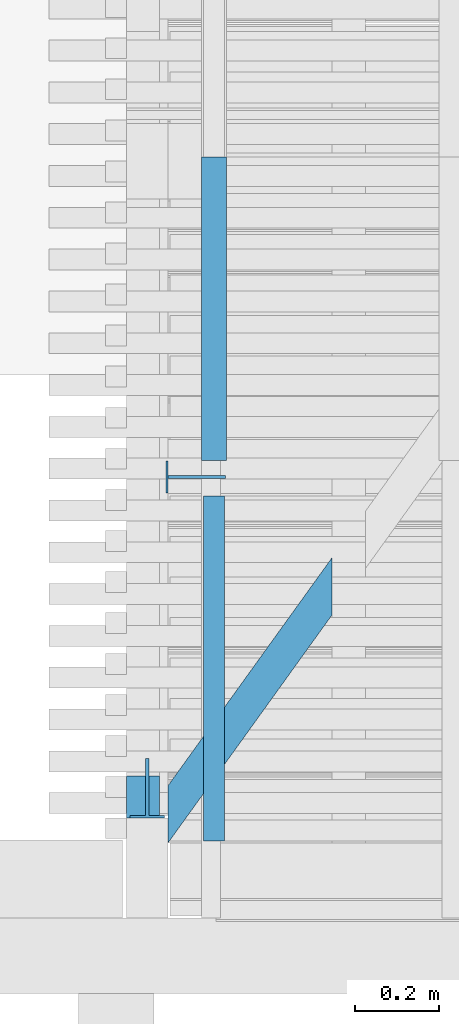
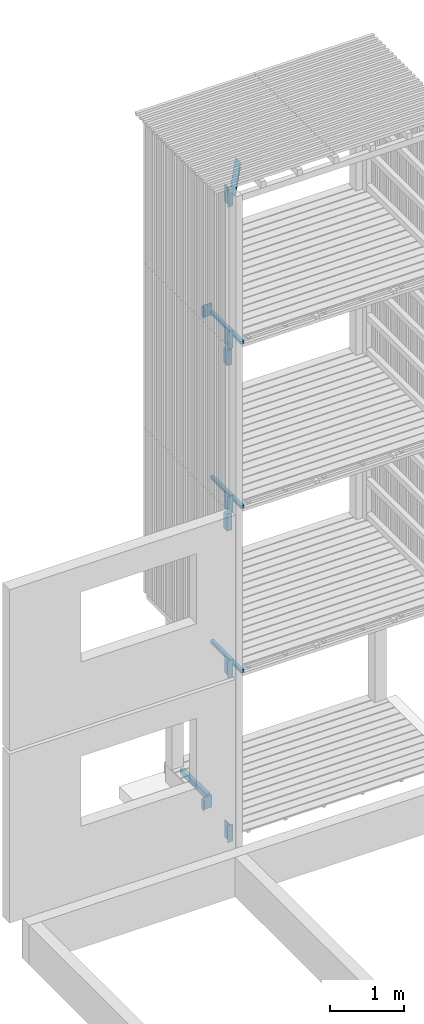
# One storey, part 161 of 182: 14 beams.
"""IFC2X3 building model written with IfcOpenShell, lengths in metres."""

from ifc_helpers import new_model, si_unit, frame, origin, place, context, project, spatial, faceted_brep, element, save


model = new_model("IFC2X3")

# Units and contexts
model_context = context("Model", 3, precision=1e-06, world=origin())
ifc_project = project(units=[si_unit("LENGTHUNIT", "METRE"), si_unit("PLANEANGLEUNIT", "RADIAN")], contexts=[model_context])

# Site, building, storey
site = spatial("IfcSite", under=ifc_project, CompositionType="ELEMENT")
building = spatial("IfcBuilding", under=site, CompositionType="ELEMENT")
storey = spatial("IfcBuildingStorey", under=building, Name="vs", CompositionType="ELEMENT", Elevation=-0.85)

# Beams
placement = place(None, origin())
beam_1_placement = place(placement, frame((3.354197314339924, 10.760077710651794, 4.85796194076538), z_axis=(0.0, 1.0, 0.0), x_axis=(0.0, 0.0, 1.0)))
element("IfcBeam", 1, at=beam_1_placement, inside=storey, Name="Support bardage", context=model_context, shape_type="Brep", body=[
    faceted_brep([(0.267038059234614, -0.039999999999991, 0.05), (0.267038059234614, -0.039999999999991, -0.050000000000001), (0.267038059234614, 0.040000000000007, -0.050000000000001), (0.267038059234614, 0.040000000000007, 0.05), (0.267038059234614, 0.040000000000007, -0.050000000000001), (0.267038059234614, -0.039999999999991, -0.050000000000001), (0.0, -0.039999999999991, -0.050000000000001), (0.0, 0.040000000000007, -0.050000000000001), (0.267038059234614, 0.040000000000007, 0.05), (0.267038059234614, 0.040000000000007, -0.050000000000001), (0.0, 0.040000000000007, -0.050000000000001), (0.0, 0.040000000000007, 0.05), (0.267038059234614, -0.039999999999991, -0.050000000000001), (0.267038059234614, -0.039999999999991, 0.05), (0.0, -0.039999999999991, 0.05), (0.0, -0.039999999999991, -0.050000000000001), (0.267038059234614, -0.039999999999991, 0.05), (0.267038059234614, 0.040000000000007, 0.05), (0.0, 0.040000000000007, 0.05), (0.0, -0.039999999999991, 0.05), (0.0, -0.039999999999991, -0.050000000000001), (0.0, -0.039999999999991, 0.05), (0.0, 0.040000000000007, 0.05), (0.0, 0.040000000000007, -0.050000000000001)], [[[0, 1, 2, 3]], [[4, 5, 6, 7]], [[8, 9, 10, 11]], [[12, 13, 14, 15]], [[16, 17, 18, 19]], [[20, 21, 22, 23]]]),
])
beam_2_placement = place(placement, frame((3.524197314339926, 10.655077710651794, 2.517999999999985), z_axis=(0.0, 0.0, 1.0), x_axis=(0.0, 1.0, 0.0)))
element("IfcBeam", 2, at=beam_2_placement, inside=storey, Name="Calage", context=model_context, shape_type="Brep", body=[
    faceted_brep([(0.824999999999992, -0.025000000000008, 0.025), (0.824999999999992, 0.024999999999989, 0.025), (-1e-15, 0.024999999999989, 0.025), (-1e-15, -0.025000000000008, 0.025), (-1e-15, 0.024999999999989, 0.025), (0.824999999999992, 0.024999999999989, 0.025), (0.824999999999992, 0.024999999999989, -0.025), (-1e-15, 0.024999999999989, -0.025), (0.824999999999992, 0.024999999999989, 0.025), (0.824999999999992, -0.025000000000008, 0.025), (0.824999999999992, -0.025000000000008, -0.025), (0.824999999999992, 0.024999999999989, -0.025), (0.824999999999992, -0.025000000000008, -0.025), (0.824999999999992, -0.025000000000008, 0.025), (-1e-15, -0.025000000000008, 0.025), (-1e-15, -0.025000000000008, -0.025), (-1e-15, 0.024999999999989, -0.025), (0.824999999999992, 0.024999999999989, -0.025), (0.824999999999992, -0.025000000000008, -0.025), (-1e-15, -0.025000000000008, -0.025), (-1e-15, 0.024999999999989, 0.025), (-1e-15, 0.024999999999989, -0.025), (-1e-15, -0.025000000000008, -0.025), (-1e-15, -0.025000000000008, 0.025)], [[[0, 1, 2, 3]], [[4, 5, 6, 7]], [[8, 9, 10, 11]], [[12, 13, 14, 15]], [[16, 17, 18, 19]], [[20, 21, 22, 23]]]),
])
beam_3_placement = place(placement, frame((3.38172577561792, 10.673435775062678, 10.404999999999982), z_axis=(0.0, 0.0, 1.0), x_axis=(0.583951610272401, 0.811788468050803, 0.0)))
element("IfcBeam", 3, at=beam_3_placement, inside=storey, Name="Support bardage", context=model_context, shape_type="Brep", body=[
    faceted_brep([(0.670717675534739, -0.039999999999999, 0.050000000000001), (0.670717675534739, -0.039999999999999, -0.050000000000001), (0.781930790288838, 0.040000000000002, -0.050000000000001), (0.781930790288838, 0.040000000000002, 0.050000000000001), (4e-15, -0.040000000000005, 0.050000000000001), (0.670717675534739, -0.039999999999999, 0.050000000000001), (0.781930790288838, 0.040000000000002, 0.050000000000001), (0.111213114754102, 0.039999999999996, 0.050000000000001), (0.111213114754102, 0.039999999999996, -0.049999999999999), (0.781930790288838, 0.040000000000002, -0.050000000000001), (0.670717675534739, -0.039999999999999, -0.050000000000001), (4e-15, -0.040000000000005, -0.050000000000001), (4e-15, -0.040000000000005, -0.050000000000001), (0.670717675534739, -0.039999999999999, -0.050000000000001), (0.670717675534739, -0.039999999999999, 0.050000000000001), (4e-15, -0.040000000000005, 0.050000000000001), (0.111213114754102, 0.039999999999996, -0.049999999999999), (4e-15, -0.040000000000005, -0.050000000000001), (4e-15, -0.040000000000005, 0.050000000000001), (0.111213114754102, 0.039999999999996, 0.050000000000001), (0.111213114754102, 0.039999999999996, -0.049999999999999), (0.111213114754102, 0.039999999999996, 0.050000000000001), (0.781930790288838, 0.040000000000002, 0.050000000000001), (0.781930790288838, 0.040000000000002, -0.050000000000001)], [[[0, 1, 2, 3]], [[4, 5, 6, 7]], [[8, 9, 10, 11]], [[12, 13, 14, 15]], [[16, 17, 18, 19]], [[20, 21, 22, 23]]]),
])
beam_4_placement = place(placement, frame((3.354197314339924, 10.760077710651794, 7.576188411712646), z_axis=(0.0, 1.0, 0.0), x_axis=(0.0, 0.0, 1.0)))
element("IfcBeam", 4, at=beam_4_placement, inside=storey, Name="Support bardage", context=model_context, shape_type="Brep", body=[
    faceted_brep([(0.248811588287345, -0.039999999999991, 0.05), (0.248811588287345, -0.039999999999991, -0.050000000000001), (0.248811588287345, 0.040000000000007, -0.050000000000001), (0.248811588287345, 0.040000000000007, 0.05), (0.248811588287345, 0.040000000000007, -0.050000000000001), (0.248811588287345, -0.039999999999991, -0.050000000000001), (0.0, -0.039999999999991, -0.050000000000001), (0.0, 0.040000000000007, -0.050000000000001), (0.248811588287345, -0.039999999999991, -0.050000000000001), (0.248811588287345, -0.039999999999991, 0.05), (0.0, -0.039999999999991, 0.05), (0.0, -0.039999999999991, -0.050000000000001), (0.248811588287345, -0.039999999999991, 0.05), (0.248811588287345, 0.040000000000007, 0.05), (0.0, 0.040000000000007, 0.05), (0.0, -0.039999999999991, 0.05), (0.248811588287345, 0.040000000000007, 0.05), (0.248811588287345, 0.040000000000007, -0.050000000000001), (0.0, 0.040000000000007, -0.050000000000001), (0.0, 0.040000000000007, 0.05), (0.0, -0.039999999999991, 0.05), (0.0, 0.040000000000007, 0.05), (0.0, 0.040000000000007, -0.050000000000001), (0.0, -0.039999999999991, -0.050000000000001)], [[[0, 1, 2, 3]], [[4, 5, 6, 7]], [[8, 9, 10, 11]], [[12, 13, 14, 15]], [[16, 17, 18, 19]], [[20, 21, 22, 23]]]),
])
beam_5_placement = place(placement, frame((3.480197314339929, 11.525077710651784, -0.243899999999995), z_axis=(1.0, 0.0, 0.0), x_axis=(0.0, 0.0, 1.0)))
element("IfcBeam", 5, at=beam_5_placement, inside=storey, Name="Contre-usinage", context=model_context, shape_type="Brep", body=[
    faceted_brep([(0.2, 0.004000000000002, -0.066000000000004), (0.2, -0.004000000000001, -0.066000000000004), (0.175, -0.004000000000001, -0.066000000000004), (0.175, 0.004000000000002, -0.066000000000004), (0.175, -0.004000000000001, -0.066000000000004), (0.0, -0.004000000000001, -0.066000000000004), (0.0, -0.038, -0.066000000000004), (0.175, -0.038, -0.066000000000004), (0.175, 0.038000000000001, -0.066000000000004), (0.0, 0.038000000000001, -0.066000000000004), (0.0, 0.004000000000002, -0.066000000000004), (0.175, 0.004000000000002, -0.066000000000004), (0.2, 0.004000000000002, -0.066000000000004), (0.175, 0.004000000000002, -0.066000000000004), (0.0, 0.004000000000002, -0.066000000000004), (0.0, 0.004000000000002, 0.070999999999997), (0.2, 0.004000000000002, 0.070999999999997), (0.2, 0.004000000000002, 0.070999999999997), (0.0, 0.004000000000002, 0.070999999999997), (0.0, -0.004000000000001, 0.070999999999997), (0.2, -0.004000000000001, 0.070999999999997), (0.175, -0.038, -0.070999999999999), (0.0, -0.038, -0.070999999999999), (0.0, 0.038000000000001, -0.070999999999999), (0.175, 0.038000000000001, -0.070999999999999), (0.2, -0.004000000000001, -0.066000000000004), (0.2, 0.004000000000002, -0.066000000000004), (0.2, 0.004000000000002, 0.070999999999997), (0.2, -0.004000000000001, 0.070999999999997), (0.2, -0.004000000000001, 0.070999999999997), (0.0, -0.004000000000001, 0.070999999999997), (0.0, -0.004000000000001, -0.066000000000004), (0.175, -0.004000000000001, -0.066000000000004), (0.2, -0.004000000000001, -0.066000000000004), (0.175, 0.038000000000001, -0.066000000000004), (0.175, 0.004000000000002, -0.066000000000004), (0.175, -0.004000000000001, -0.066000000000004), (0.175, -0.038, -0.066000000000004), (0.175, -0.038, -0.070999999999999), (0.175, 0.038000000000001, -0.070999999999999), (0.0, -0.038, -0.066000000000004), (0.0, -0.004000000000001, -0.066000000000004), (0.0, -0.004000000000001, 0.070999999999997), (0.0, 0.004000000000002, 0.070999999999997), (0.0, 0.004000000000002, -0.066000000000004), (0.0, 0.038000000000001, -0.066000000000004), (0.0, 0.038000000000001, -0.070999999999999), (0.0, -0.038, -0.070999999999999), (0.175, -0.038, -0.070999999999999), (0.175, -0.038, -0.066000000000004), (0.0, -0.038, -0.066000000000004), (0.0, -0.038, -0.070999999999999), (0.175, 0.038000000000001, -0.066000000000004), (0.175, 0.038000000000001, -0.070999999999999), (0.0, 0.038000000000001, -0.070999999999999), (0.0, 0.038000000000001, -0.066000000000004)], [[[0, 1, 2, 3]], [[4, 5, 6, 7]], [[8, 9, 10, 11]], [[12, 13, 14, 15, 16]], [[17, 18, 19, 20]], [[21, 22, 23, 24]], [[25, 26, 27, 28]], [[29, 30, 31, 32, 33]], [[34, 35, 36, 37, 38, 39]], [[40, 41, 42, 43, 44, 45, 46, 47]], [[48, 49, 50, 51]], [[52, 53, 54, 55]]]),
])
beam_6_placement = place(placement, frame((3.323197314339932, 10.781077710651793, 10.314999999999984), z_axis=(0.0, 0.0, 1.0), x_axis=(1.0, 0.0, 0.0)))
element("IfcBeam", 6, at=beam_6_placement, inside=storey, Name="Contre-usinage", context=model_context, shape_type="Brep", body=[
    faceted_brep([(0.037000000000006, -0.065999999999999, -0.140000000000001), (0.037000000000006, 0.071000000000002, -0.140000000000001), (0.045000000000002, 0.071000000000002, -0.140000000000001), (0.045000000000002, -0.065999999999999, -0.140000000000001), (0.081999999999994, -0.065999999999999, -0.140000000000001), (0.081999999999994, -0.071000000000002, -0.140000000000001), (0.0, -0.071000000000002, -0.140000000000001), (0.0, -0.065999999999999, -0.140000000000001), (0.045000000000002, 0.071000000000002, -0.140000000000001), (0.037000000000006, 0.071000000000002, -0.140000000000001), (0.037000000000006, 0.071000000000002, 0.140000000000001), (0.045000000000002, 0.071000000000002, 0.140000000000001), (0.045000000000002, -0.065999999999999, 0.140000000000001), (0.045000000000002, -0.065999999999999, -0.140000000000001), (0.045000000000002, 0.071000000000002, -0.140000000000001), (0.045000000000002, 0.071000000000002, 0.140000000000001), (0.081999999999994, -0.065999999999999, -0.140000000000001), (0.045000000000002, -0.065999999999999, -0.140000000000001), (0.045000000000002, -0.065999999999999, 0.140000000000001), (0.081999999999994, -0.065999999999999, 0.140000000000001), (0.081999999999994, -0.071000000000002, -0.140000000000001), (0.081999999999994, -0.065999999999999, -0.140000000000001), (0.081999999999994, -0.065999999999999, 0.140000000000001), (0.081999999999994, -0.071000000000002, 0.140000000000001), (0.0, -0.071000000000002, -0.140000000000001), (0.081999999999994, -0.071000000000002, -0.140000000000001), (0.081999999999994, -0.071000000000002, 0.140000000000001), (0.0, -0.071000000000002, 0.140000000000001), (0.0, -0.065999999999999, -0.140000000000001), (0.0, -0.071000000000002, -0.140000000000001), (0.0, -0.071000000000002, 0.140000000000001), (0.0, -0.065999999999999, 0.140000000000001), (0.037000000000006, -0.065999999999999, -0.140000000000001), (0.0, -0.065999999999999, -0.140000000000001), (0.0, -0.065999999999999, 0.140000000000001), (0.037000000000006, -0.065999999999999, 0.140000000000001), (0.037000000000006, 0.071000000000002, 0.140000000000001), (0.037000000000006, 0.071000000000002, -0.140000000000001), (0.037000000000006, -0.065999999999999, -0.140000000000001), (0.037000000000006, -0.065999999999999, 0.140000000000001), (0.081999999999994, -0.065999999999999, 0.140000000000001), (0.045000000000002, -0.065999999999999, 0.140000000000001), (0.045000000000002, 0.071000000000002, 0.140000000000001), (0.037000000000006, 0.071000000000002, 0.140000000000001), (0.037000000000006, -0.065999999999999, 0.140000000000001), (0.0, -0.065999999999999, 0.140000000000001), (0.0, -0.071000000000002, 0.140000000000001), (0.081999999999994, -0.071000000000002, 0.140000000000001)], [[[0, 1, 2, 3, 4, 5, 6, 7]], [[8, 9, 10, 11]], [[12, 13, 14, 15]], [[16, 17, 18, 19]], [[20, 21, 22, 23]], [[24, 25, 26, 27]], [[28, 29, 30, 31]], [[32, 33, 34, 35]], [[36, 37, 38, 39]], [[40, 41, 42, 43, 44, 45, 46, 47]]]),
])
beam_7_placement = place(placement, frame((3.524197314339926, 10.655077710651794, 5.217999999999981), z_axis=(0.0, 0.0, 1.0), x_axis=(0.0, 1.0, 0.0)))
element("IfcBeam", 7, at=beam_7_placement, inside=storey, Name="Calage", context=model_context, shape_type="Brep", body=[
    faceted_brep([(0.824999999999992, -0.025000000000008, 0.024999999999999), (0.824999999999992, 0.024999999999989, 0.024999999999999), (-1e-15, 0.024999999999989, 0.024999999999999), (-1e-15, -0.025000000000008, 0.024999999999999), (-1e-15, 0.024999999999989, 0.024999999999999), (0.824999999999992, 0.024999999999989, 0.024999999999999), (0.824999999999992, 0.024999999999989, -0.025), (-1e-15, 0.024999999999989, -0.025), (0.824999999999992, 0.024999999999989, 0.024999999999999), (0.824999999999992, -0.025000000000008, 0.024999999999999), (0.824999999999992, -0.025000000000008, -0.025), (0.824999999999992, 0.024999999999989, -0.025), (0.824999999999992, -0.025000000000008, -0.025), (0.824999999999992, -0.025000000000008, 0.024999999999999), (-1e-15, -0.025000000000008, 0.024999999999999), (-1e-15, -0.025000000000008, -0.025), (-1e-15, 0.024999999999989, -0.025), (0.824999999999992, 0.024999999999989, -0.025), (0.824999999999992, -0.025000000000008, -0.025), (-1e-15, -0.025000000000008, -0.025), (-1e-15, 0.024999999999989, 0.024999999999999), (-1e-15, 0.024999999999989, -0.025), (-1e-15, -0.025000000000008, -0.025), (-1e-15, -0.025000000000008, 0.024999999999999)], [[[0, 1, 2, 3]], [[4, 5, 6, 7]], [[8, 9, 10, 11]], [[12, 13, 14, 15]], [[16, 17, 18, 19]], [[20, 21, 22, 23]]]),
])
beam_8_placement = place(placement, frame((3.480197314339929, 11.525077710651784, 7.839999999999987), z_axis=(1.0, 0.0, 0.0), x_axis=(0.0, 0.0, 1.0)))
element("IfcBeam", 8, at=beam_8_placement, inside=storey, Name="Contre-usinage", context=model_context, shape_type="Brep", body=[
    faceted_brep([(0.200000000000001, 0.004000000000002, -0.066000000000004), (0.200000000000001, -0.004000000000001, -0.066000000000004), (0.175000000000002, -0.004000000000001, -0.066000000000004), (0.175000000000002, 0.004000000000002, -0.066000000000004), (0.175000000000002, -0.004000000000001, -0.066000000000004), (2e-15, -0.004000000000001, -0.066000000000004), (2e-15, -0.038, -0.066000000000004), (0.175000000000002, -0.038, -0.066000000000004), (0.175000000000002, 0.038000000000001, -0.066000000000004), (2e-15, 0.038000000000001, -0.066000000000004), (2e-15, 0.004000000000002, -0.066000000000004), (0.175000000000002, 0.004000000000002, -0.066000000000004), (0.200000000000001, 0.004000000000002, -0.066000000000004), (0.175000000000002, 0.004000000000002, -0.066000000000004), (2e-15, 0.004000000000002, -0.066000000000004), (2e-15, 0.004000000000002, 0.070999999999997), (0.200000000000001, 0.004000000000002, 0.070999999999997), (0.200000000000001, 0.004000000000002, 0.070999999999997), (2e-15, 0.004000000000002, 0.070999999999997), (2e-15, -0.004000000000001, 0.070999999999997), (0.200000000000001, -0.004000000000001, 0.070999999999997), (0.175000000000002, -0.038, -0.070999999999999), (2e-15, -0.038, -0.070999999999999), (2e-15, 0.038000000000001, -0.070999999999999), (0.175000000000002, 0.038000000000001, -0.070999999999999), (0.175000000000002, 0.038000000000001, -0.066000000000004), (0.175000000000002, 0.004000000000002, -0.066000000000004), (0.175000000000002, -0.004000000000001, -0.066000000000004), (0.175000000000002, -0.038, -0.066000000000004), (0.175000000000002, -0.038, -0.070999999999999), (0.175000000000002, 0.038000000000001, -0.070999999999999), (0.200000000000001, -0.004000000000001, 0.070999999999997), (2e-15, -0.004000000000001, 0.070999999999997), (2e-15, -0.004000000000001, -0.066000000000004), (0.175000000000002, -0.004000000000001, -0.066000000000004), (0.200000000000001, -0.004000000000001, -0.066000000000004), (0.200000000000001, -0.004000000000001, -0.066000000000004), (0.200000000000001, 0.004000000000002, -0.066000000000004), (0.200000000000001, 0.004000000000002, 0.070999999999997), (0.200000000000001, -0.004000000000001, 0.070999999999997), (0.175000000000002, -0.038, -0.070999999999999), (0.175000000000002, -0.038, -0.066000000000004), (2e-15, -0.038, -0.066000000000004), (2e-15, -0.038, -0.070999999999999), (2e-15, -0.038, -0.066000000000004), (2e-15, -0.004000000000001, -0.066000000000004), (2e-15, -0.004000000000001, 0.070999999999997), (2e-15, 0.004000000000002, 0.070999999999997), (2e-15, 0.004000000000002, -0.066000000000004), (2e-15, 0.038000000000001, -0.066000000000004), (2e-15, 0.038000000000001, -0.070999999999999), (2e-15, -0.038, -0.070999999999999), (0.175000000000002, 0.038000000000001, -0.066000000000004), (0.175000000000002, 0.038000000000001, -0.070999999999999), (2e-15, 0.038000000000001, -0.070999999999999), (2e-15, 0.038000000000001, -0.066000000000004)], [[[0, 1, 2, 3]], [[4, 5, 6, 7]], [[8, 9, 10, 11]], [[12, 13, 14, 15, 16]], [[17, 18, 19, 20]], [[21, 22, 23, 24]], [[25, 26, 27, 28, 29, 30]], [[31, 32, 33, 34, 35]], [[36, 37, 38, 39]], [[40, 41, 42, 43]], [[44, 45, 46, 47, 48, 49, 50, 51]], [[52, 53, 54, 55]]]),
])
beam_9_placement = place(placement, frame((3.524197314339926, 11.565077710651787, -0.091949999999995), z_axis=(0.0, 0.0, 1.0), x_axis=(0.0, 1.0, 0.0)))
element("IfcBeam", 9, at=beam_9_placement, inside=storey, Name="Solive", context=model_context, shape_type="Brep", body=[
    faceted_brep([(0.0, -0.030000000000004, -0.04805), (0.0, 0.029999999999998, -0.04805), (0.725000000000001, 0.029999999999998, -0.04805), (0.725000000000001, -0.030000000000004, -0.04805), (0.725000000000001, -0.030000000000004, 0.033549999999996), (0.0, -0.030000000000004, 0.048049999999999), (0.0, -0.030000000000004, -0.04805), (0.725000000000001, -0.030000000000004, -0.04805), (0.0, -0.030000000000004, 0.048049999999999), (0.725000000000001, -0.030000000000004, 0.033549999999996), (0.725000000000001, 0.029999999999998, 0.033549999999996), (0.0, 0.029999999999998, 0.048049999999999), (0.0, -0.030000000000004, 0.048049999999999), (0.0, 0.029999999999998, 0.048049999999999), (0.0, 0.029999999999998, -0.04805), (0.0, -0.030000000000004, -0.04805), (0.0, 0.029999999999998, -0.04805), (0.0, 0.029999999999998, 0.048049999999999), (0.725000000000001, 0.029999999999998, 0.033549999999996), (0.725000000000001, 0.029999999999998, -0.04805), (0.725000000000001, -0.030000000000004, 0.033549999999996), (0.725000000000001, -0.030000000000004, -0.04805), (0.725000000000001, 0.029999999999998, -0.04805), (0.725000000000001, 0.029999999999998, 0.033549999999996)], [[[0, 1, 2, 3]], [[4, 5, 6, 7]], [[8, 9, 10, 11]], [[12, 13, 14, 15]], [[16, 17, 18, 19]], [[20, 21, 22, 23]]]),
])
beam_10_placement = place(placement, frame((3.323197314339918, 10.781077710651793, 5.279999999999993), z_axis=(0.0, 0.0, 1.0), x_axis=(1.0, 0.0, 0.0)))
element("IfcBeam", 10, at=beam_10_placement, inside=storey, Name="Contre-usinage", context=model_context, shape_type="Brep", body=[
    faceted_brep([(0.037000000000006, -0.065999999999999, -0.140000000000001), (0.037000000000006, 0.071000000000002, -0.140000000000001), (0.045000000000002, 0.071000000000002, -0.140000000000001), (0.045000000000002, -0.065999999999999, -0.140000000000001), (0.082000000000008, -0.065999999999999, -0.140000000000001), (0.082000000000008, -0.071000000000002, -0.140000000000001), (0.0, -0.071000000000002, -0.140000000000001), (0.0, -0.065999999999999, -0.140000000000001), (0.045000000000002, 0.071000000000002, -0.140000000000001), (0.037000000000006, 0.071000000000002, -0.140000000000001), (0.037000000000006, 0.071000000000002, 0.140000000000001), (0.045000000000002, 0.071000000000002, 0.140000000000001), (0.045000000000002, -0.065999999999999, 0.140000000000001), (0.045000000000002, -0.065999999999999, -0.140000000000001), (0.045000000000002, 0.071000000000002, -0.140000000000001), (0.045000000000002, 0.071000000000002, 0.140000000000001), (0.082000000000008, -0.065999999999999, -0.140000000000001), (0.045000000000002, -0.065999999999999, -0.140000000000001), (0.045000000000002, -0.065999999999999, 0.140000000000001), (0.082000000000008, -0.065999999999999, 0.140000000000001), (0.082000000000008, -0.071000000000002, -0.140000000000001), (0.082000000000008, -0.065999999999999, -0.140000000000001), (0.082000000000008, -0.065999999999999, 0.140000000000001), (0.082000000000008, -0.071000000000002, 0.140000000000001), (0.0, -0.071000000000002, -0.140000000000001), (0.082000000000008, -0.071000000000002, -0.140000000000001), (0.082000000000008, -0.071000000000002, 0.140000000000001), (0.0, -0.071000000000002, 0.140000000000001), (0.0, -0.065999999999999, -0.140000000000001), (0.0, -0.071000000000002, -0.140000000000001), (0.0, -0.071000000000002, 0.140000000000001), (0.0, -0.065999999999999, 0.140000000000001), (0.037000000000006, -0.065999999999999, -0.140000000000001), (0.0, -0.065999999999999, -0.140000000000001), (0.0, -0.065999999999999, 0.140000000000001), (0.037000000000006, -0.065999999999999, 0.140000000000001), (0.037000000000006, 0.071000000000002, 0.140000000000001), (0.037000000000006, 0.071000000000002, -0.140000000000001), (0.037000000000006, -0.065999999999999, -0.140000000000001), (0.037000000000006, -0.065999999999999, 0.140000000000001), (0.082000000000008, -0.065999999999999, 0.140000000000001), (0.045000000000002, -0.065999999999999, 0.140000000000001), (0.045000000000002, 0.071000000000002, 0.140000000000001), (0.037000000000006, 0.071000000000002, 0.140000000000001), (0.037000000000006, -0.065999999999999, 0.140000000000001), (0.0, -0.065999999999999, 0.140000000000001), (0.0, -0.071000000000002, 0.140000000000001), (0.082000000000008, -0.071000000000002, 0.140000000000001)], [[[0, 1, 2, 3, 4, 5, 6, 7]], [[8, 9, 10, 11]], [[12, 13, 14, 15]], [[16, 17, 18, 19]], [[20, 21, 22, 23]], [[24, 25, 26, 27]], [[28, 29, 30, 31]], [[32, 33, 34, 35]], [[36, 37, 38, 39]], [[40, 41, 42, 43, 44, 45, 46, 47]]]),
])
beam_11_placement = place(placement, frame((3.323197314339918, 10.781077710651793, -0.119999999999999), z_axis=(0.0, 0.0, 1.0), x_axis=(1.0, 0.0, 0.0)))
element("IfcBeam", 11, at=beam_11_placement, inside=storey, Name="Contre-usinage", context=model_context, shape_type="Brep", body=[
    faceted_brep([(0.037000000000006, -0.065999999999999, -0.14), (0.037000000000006, 0.071000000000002, -0.14), (0.045000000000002, 0.071000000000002, -0.14), (0.045000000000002, -0.065999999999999, -0.14), (0.082000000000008, -0.065999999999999, -0.14), (0.082000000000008, -0.071000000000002, -0.14), (0.0, -0.071000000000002, -0.14), (0.0, -0.065999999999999, -0.14), (0.045000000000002, 0.071000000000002, -0.14), (0.037000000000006, 0.071000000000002, -0.14), (0.037000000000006, 0.071000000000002, 0.14), (0.045000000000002, 0.071000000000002, 0.14), (0.045000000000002, -0.065999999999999, 0.14), (0.045000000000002, -0.065999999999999, -0.14), (0.045000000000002, 0.071000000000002, -0.14), (0.045000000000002, 0.071000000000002, 0.14), (0.082000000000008, -0.065999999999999, -0.14), (0.045000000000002, -0.065999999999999, -0.14), (0.045000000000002, -0.065999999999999, 0.14), (0.082000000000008, -0.065999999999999, 0.14), (0.082000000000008, -0.071000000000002, -0.14), (0.082000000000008, -0.065999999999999, -0.14), (0.082000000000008, -0.065999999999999, 0.14), (0.082000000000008, -0.071000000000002, 0.14), (0.0, -0.071000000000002, -0.14), (0.082000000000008, -0.071000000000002, -0.14), (0.082000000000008, -0.071000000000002, 0.14), (0.0, -0.071000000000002, 0.14), (0.0, -0.065999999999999, -0.14), (0.0, -0.071000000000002, -0.14), (0.0, -0.071000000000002, 0.14), (0.0, -0.065999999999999, 0.14), (0.037000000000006, -0.065999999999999, -0.14), (0.0, -0.065999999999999, -0.14), (0.0, -0.065999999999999, 0.14), (0.037000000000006, -0.065999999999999, 0.14), (0.037000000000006, 0.071000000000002, 0.14), (0.037000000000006, 0.071000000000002, -0.14), (0.037000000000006, -0.065999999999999, -0.14), (0.037000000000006, -0.065999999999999, 0.14), (0.082000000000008, -0.065999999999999, 0.14), (0.045000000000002, -0.065999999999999, 0.14), (0.045000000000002, 0.071000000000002, 0.14), (0.037000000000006, 0.071000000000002, 0.14), (0.037000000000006, -0.065999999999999, 0.14), (0.0, -0.065999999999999, 0.14), (0.0, -0.071000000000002, 0.14), (0.082000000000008, -0.071000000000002, 0.14)], [[[0, 1, 2, 3, 4, 5, 6, 7]], [[8, 9, 10, 11]], [[12, 13, 14, 15]], [[16, 17, 18, 19]], [[20, 21, 22, 23]], [[24, 25, 26, 27]], [[28, 29, 30, 31]], [[32, 33, 34, 35]], [[36, 37, 38, 39]], [[40, 41, 42, 43, 44, 45, 46, 47]]]),
])
beam_12_placement = place(placement, frame((3.524197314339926, 10.655077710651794, 7.917999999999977), z_axis=(0.0, 0.0, 1.0), x_axis=(0.0, 1.0, 0.0)))
element("IfcBeam", 12, at=beam_12_placement, inside=storey, Name="Calage", context=model_context, shape_type="Brep", body=[
    faceted_brep([(0.824999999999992, -0.025000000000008, 0.024999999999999), (0.824999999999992, 0.024999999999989, 0.024999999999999), (-1e-15, 0.024999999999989, 0.024999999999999), (-1e-15, -0.025000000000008, 0.024999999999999), (-1e-15, 0.024999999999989, 0.024999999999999), (0.824999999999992, 0.024999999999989, 0.024999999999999), (0.824999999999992, 0.024999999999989, -0.025), (-1e-15, 0.024999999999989, -0.025), (0.824999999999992, 0.024999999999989, 0.024999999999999), (0.824999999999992, -0.025000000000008, 0.024999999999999), (0.824999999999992, -0.025000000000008, -0.025), (0.824999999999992, 0.024999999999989, -0.025), (0.824999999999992, -0.025000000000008, -0.025), (0.824999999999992, -0.025000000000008, 0.024999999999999), (-1e-15, -0.025000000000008, 0.024999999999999), (-1e-15, -0.025000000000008, -0.025), (-1e-15, 0.024999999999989, -0.025), (0.824999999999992, 0.024999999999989, -0.025), (0.824999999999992, -0.025000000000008, -0.025), (-1e-15, -0.025000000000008, -0.025), (-1e-15, 0.024999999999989, 0.024999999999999), (-1e-15, 0.024999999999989, -0.025), (-1e-15, -0.025000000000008, -0.025), (-1e-15, -0.025000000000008, 0.024999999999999)], [[[0, 1, 2, 3]], [[4, 5, 6, 7]], [[8, 9, 10, 11]], [[12, 13, 14, 15]], [[16, 17, 18, 19]], [[20, 21, 22, 23]]]),
])
beam_13_placement = place(placement, frame((3.323197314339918, 10.781077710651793, 2.579999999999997), z_axis=(0.0, 0.0, 1.0), x_axis=(1.0, 0.0, 0.0)))
element("IfcBeam", 13, at=beam_13_placement, inside=storey, Name="Contre-usinage", context=model_context, shape_type="Brep", body=[
    faceted_brep([(0.037000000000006, -0.065999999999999, -0.14), (0.037000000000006, 0.071000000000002, -0.14), (0.045000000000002, 0.071000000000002, -0.14), (0.045000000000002, -0.065999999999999, -0.14), (0.082000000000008, -0.065999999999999, -0.14), (0.082000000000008, -0.071000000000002, -0.14), (0.0, -0.071000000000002, -0.14), (0.0, -0.065999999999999, -0.14), (0.045000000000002, 0.071000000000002, -0.14), (0.037000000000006, 0.071000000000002, -0.14), (0.037000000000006, 0.071000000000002, 0.14), (0.045000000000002, 0.071000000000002, 0.14), (0.045000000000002, -0.065999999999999, 0.14), (0.045000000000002, -0.065999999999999, -0.14), (0.045000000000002, 0.071000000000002, -0.14), (0.045000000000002, 0.071000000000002, 0.14), (0.082000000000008, -0.065999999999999, -0.14), (0.045000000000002, -0.065999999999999, -0.14), (0.045000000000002, -0.065999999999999, 0.14), (0.082000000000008, -0.065999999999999, 0.14), (0.082000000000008, -0.071000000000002, -0.14), (0.082000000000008, -0.065999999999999, -0.14), (0.082000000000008, -0.065999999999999, 0.14), (0.082000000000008, -0.071000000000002, 0.14), (0.0, -0.071000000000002, -0.14), (0.082000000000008, -0.071000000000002, -0.14), (0.082000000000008, -0.071000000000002, 0.14), (0.0, -0.071000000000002, 0.14), (0.0, -0.065999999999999, -0.14), (0.0, -0.071000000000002, -0.14), (0.0, -0.071000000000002, 0.14), (0.0, -0.065999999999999, 0.14), (0.037000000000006, -0.065999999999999, -0.14), (0.0, -0.065999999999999, -0.14), (0.0, -0.065999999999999, 0.14), (0.037000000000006, -0.065999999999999, 0.14), (0.037000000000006, 0.071000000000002, 0.14), (0.037000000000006, 0.071000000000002, -0.14), (0.037000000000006, -0.065999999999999, -0.14), (0.037000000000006, -0.065999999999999, 0.14), (0.082000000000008, -0.065999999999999, 0.14), (0.045000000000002, -0.065999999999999, 0.14), (0.045000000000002, 0.071000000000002, 0.14), (0.037000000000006, 0.071000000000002, 0.14), (0.037000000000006, -0.065999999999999, 0.14), (0.0, -0.065999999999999, 0.14), (0.0, -0.071000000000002, 0.14), (0.082000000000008, -0.071000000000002, 0.14)], [[[0, 1, 2, 3, 4, 5, 6, 7]], [[8, 9, 10, 11]], [[12, 13, 14, 15]], [[16, 17, 18, 19]], [[20, 21, 22, 23]], [[24, 25, 26, 27]], [[28, 29, 30, 31]], [[32, 33, 34, 35]], [[36, 37, 38, 39]], [[40, 41, 42, 43, 44, 45, 46, 47]]]),
])
beam_14_placement = place(placement, frame((3.323197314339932, 10.781077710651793, 7.979999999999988), z_axis=(0.0, 0.0, 1.0), x_axis=(1.0, 0.0, 0.0)))
element("IfcBeam", 14, at=beam_14_placement, inside=storey, Name="Contre-usinage", context=model_context, shape_type="Brep", body=[
    faceted_brep([(0.036999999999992, -0.065999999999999, -0.14), (0.036999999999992, 0.071000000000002, -0.14), (0.044999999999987, 0.071000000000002, -0.14), (0.044999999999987, -0.065999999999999, -0.14), (0.081999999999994, -0.065999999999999, -0.14), (0.081999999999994, -0.071000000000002, -0.14), (0.0, -0.071000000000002, -0.14), (0.0, -0.065999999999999, -0.14), (0.044999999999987, 0.071000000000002, -0.14), (0.036999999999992, 0.071000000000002, -0.14), (0.036999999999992, 0.071000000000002, 0.140000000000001), (0.044999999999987, 0.071000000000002, 0.140000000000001), (0.044999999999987, -0.065999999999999, 0.140000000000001), (0.044999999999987, -0.065999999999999, -0.14), (0.044999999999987, 0.071000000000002, -0.14), (0.044999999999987, 0.071000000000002, 0.140000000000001), (0.081999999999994, -0.065999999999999, -0.14), (0.044999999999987, -0.065999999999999, -0.14), (0.044999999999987, -0.065999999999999, 0.140000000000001), (0.081999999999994, -0.065999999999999, 0.140000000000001), (0.081999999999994, -0.071000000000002, -0.14), (0.081999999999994, -0.065999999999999, -0.14), (0.081999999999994, -0.065999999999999, 0.140000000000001), (0.081999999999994, -0.071000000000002, 0.140000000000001), (0.0, -0.071000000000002, -0.14), (0.081999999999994, -0.071000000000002, -0.14), (0.081999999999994, -0.071000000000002, 0.140000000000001), (0.0, -0.071000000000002, 0.140000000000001), (0.0, -0.065999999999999, -0.14), (0.0, -0.071000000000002, -0.14), (0.0, -0.071000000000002, 0.140000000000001), (0.0, -0.065999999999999, 0.140000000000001), (0.036999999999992, -0.065999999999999, -0.14), (0.0, -0.065999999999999, -0.14), (0.0, -0.065999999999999, 0.140000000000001), (0.036999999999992, -0.065999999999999, 0.140000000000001), (0.036999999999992, 0.071000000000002, 0.140000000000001), (0.036999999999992, 0.071000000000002, -0.14), (0.036999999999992, -0.065999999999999, -0.14), (0.036999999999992, -0.065999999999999, 0.140000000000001), (0.081999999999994, -0.065999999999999, 0.140000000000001), (0.044999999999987, -0.065999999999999, 0.140000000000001), (0.044999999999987, 0.071000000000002, 0.140000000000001), (0.036999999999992, 0.071000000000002, 0.140000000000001), (0.036999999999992, -0.065999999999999, 0.140000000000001), (0.0, -0.065999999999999, 0.140000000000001), (0.0, -0.071000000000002, 0.140000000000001), (0.081999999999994, -0.071000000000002, 0.140000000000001)], [[[0, 1, 2, 3, 4, 5, 6, 7]], [[8, 9, 10, 11]], [[12, 13, 14, 15]], [[16, 17, 18, 19]], [[20, 21, 22, 23]], [[24, 25, 26, 27]], [[28, 29, 30, 31]], [[32, 33, 34, 35]], [[36, 37, 38, 39]], [[40, 41, 42, 43, 44, 45, 46, 47]]]),
])

save(model, "model.ifc")
